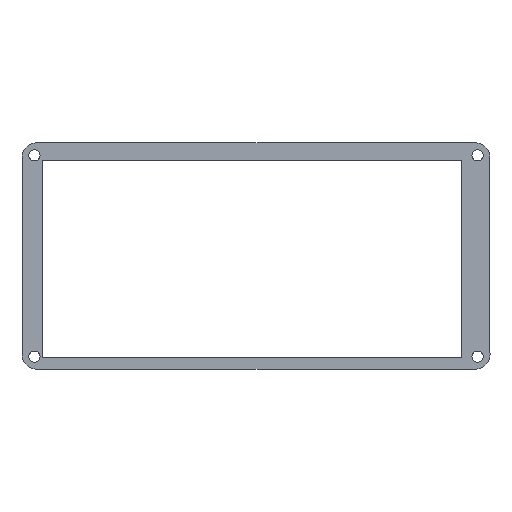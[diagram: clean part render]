
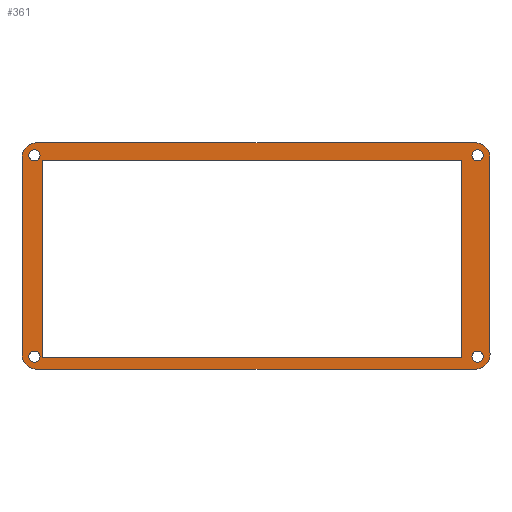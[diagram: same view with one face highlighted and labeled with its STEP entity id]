
A CAD part, top view. The second image highlights one B-rep face of the part: STEP entity #361.
In plain terms, the highlighted planar face has unit normal (0, 0, 1).
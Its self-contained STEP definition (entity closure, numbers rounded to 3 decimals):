
#15=FACE_BOUND('',#70,.T.);
#16=FACE_BOUND('',#71,.T.);
#17=FACE_BOUND('',#72,.T.);
#18=FACE_BOUND('',#73,.T.);
#19=FACE_BOUND('',#74,.T.);
#33=PLANE('',#409);
#51=FACE_OUTER_BOUND('',#69,.T.);
#69=EDGE_LOOP('',(#305,#306,#307,#308,#309,#310,#311,#312));
#70=EDGE_LOOP('',(#313));
#71=EDGE_LOOP('',(#314));
#72=EDGE_LOOP('',(#315));
#73=EDGE_LOOP('',(#316));
#74=EDGE_LOOP('',(#317,#318,#319,#320));
#85=LINE('',#541,#117);
#89=LINE('',#549,#121);
#92=LINE('',#555,#124);
#95=LINE('',#560,#127);
#97=LINE('',#565,#129);
#102=LINE('',#579,#134);
#106=LINE('',#591,#138);
#110=LINE('',#603,#142);
#117=VECTOR('',#443,10.);
#121=VECTOR('',#449,10.);
#124=VECTOR('',#454,10.);
#127=VECTOR('',#459,10.);
#129=VECTOR('',#463,10.);
#134=VECTOR('',#476,10.);
#138=VECTOR('',#488,10.);
#142=VECTOR('',#500,10.);
#145=CIRCLE('',#378,1.3);
#147=CIRCLE('',#381,1.3);
#149=CIRCLE('',#384,1.3);
#151=CIRCLE('',#387,1.3);
#153=CIRCLE('',#395,3.4);
#155=CIRCLE('',#399,3.4);
#157=CIRCLE('',#403,3.4);
#159=CIRCLE('',#407,3.4);
#161=VERTEX_POINT('',#515);
#163=VERTEX_POINT('',#521);
#165=VERTEX_POINT('',#527);
#167=VERTEX_POINT('',#533);
#169=VERTEX_POINT('',#539);
#170=VERTEX_POINT('',#540);
#173=VERTEX_POINT('',#548);
#175=VERTEX_POINT('',#554);
#177=VERTEX_POINT('',#563);
#178=VERTEX_POINT('',#564);
#181=VERTEX_POINT('',#572);
#183=VERTEX_POINT('',#578);
#185=VERTEX_POINT('',#584);
#187=VERTEX_POINT('',#590);
#189=VERTEX_POINT('',#596);
#191=VERTEX_POINT('',#602);
#193=EDGE_CURVE('',#161,#161,#145,.T.);
#196=EDGE_CURVE('',#163,#163,#147,.T.);
#199=EDGE_CURVE('',#165,#165,#149,.T.);
#202=EDGE_CURVE('',#167,#167,#151,.T.);
#205=EDGE_CURVE('',#169,#170,#85,.T.);
#209=EDGE_CURVE('',#170,#173,#89,.F.);
#212=EDGE_CURVE('',#173,#175,#92,.F.);
#215=EDGE_CURVE('',#175,#169,#95,.F.);
#217=EDGE_CURVE('',#177,#178,#97,.T.);
#221=EDGE_CURVE('',#177,#181,#153,.T.);
#224=EDGE_CURVE('',#183,#181,#102,.T.);
#227=EDGE_CURVE('',#183,#185,#155,.T.);
#230=EDGE_CURVE('',#187,#185,#106,.T.);
#233=EDGE_CURVE('',#187,#189,#157,.T.);
#236=EDGE_CURVE('',#191,#189,#110,.T.);
#239=EDGE_CURVE('',#191,#178,#159,.T.);
#305=ORIENTED_EDGE('',*,*,#239,.T.);
#306=ORIENTED_EDGE('',*,*,#217,.F.);
#307=ORIENTED_EDGE('',*,*,#221,.T.);
#308=ORIENTED_EDGE('',*,*,#224,.F.);
#309=ORIENTED_EDGE('',*,*,#227,.T.);
#310=ORIENTED_EDGE('',*,*,#230,.F.);
#311=ORIENTED_EDGE('',*,*,#233,.T.);
#312=ORIENTED_EDGE('',*,*,#236,.F.);
#313=ORIENTED_EDGE('',*,*,#193,.T.);
#314=ORIENTED_EDGE('',*,*,#196,.T.);
#315=ORIENTED_EDGE('',*,*,#199,.T.);
#316=ORIENTED_EDGE('',*,*,#202,.T.);
#317=ORIENTED_EDGE('',*,*,#215,.T.);
#318=ORIENTED_EDGE('',*,*,#205,.T.);
#319=ORIENTED_EDGE('',*,*,#209,.T.);
#320=ORIENTED_EDGE('',*,*,#212,.T.);
#361=ADVANCED_FACE('',(#51,#15,#16,#17,#18,#19),#33,.T.);
#378=AXIS2_PLACEMENT_3D('',#516,#415,#416);
#381=AXIS2_PLACEMENT_3D('',#522,#422,#423);
#384=AXIS2_PLACEMENT_3D('',#528,#429,#430);
#387=AXIS2_PLACEMENT_3D('',#534,#436,#437);
#395=AXIS2_PLACEMENT_3D('',#573,#469,#470);
#399=AXIS2_PLACEMENT_3D('',#585,#481,#482);
#403=AXIS2_PLACEMENT_3D('',#597,#493,#494);
#407=AXIS2_PLACEMENT_3D('',#608,#505,#506);
#409=AXIS2_PLACEMENT_3D('',#610,#509,#510);
#415=DIRECTION('center_axis',(0.,0.,-1.));
#416=DIRECTION('ref_axis',(1.,0.,0.));
#422=DIRECTION('center_axis',(0.,0.,-1.));
#423=DIRECTION('ref_axis',(1.,0.,0.));
#429=DIRECTION('center_axis',(0.,0.,-1.));
#430=DIRECTION('ref_axis',(1.,0.,0.));
#436=DIRECTION('center_axis',(0.,0.,-1.));
#437=DIRECTION('ref_axis',(1.,0.,0.));
#443=DIRECTION('',(1.,0.,0.));
#449=DIRECTION('',(0.,1.,0.));
#454=DIRECTION('',(1.,0.,0.));
#459=DIRECTION('',(0.,-1.,0.));
#463=DIRECTION('',(0.,1.,0.));
#469=DIRECTION('center_axis',(0.,0.,1.));
#470=DIRECTION('ref_axis',(-1.,0.,0.));
#476=DIRECTION('',(-1.,0.,0.));
#481=DIRECTION('center_axis',(0.,0.,1.));
#482=DIRECTION('ref_axis',(0.,-1.,0.));
#488=DIRECTION('',(0.,-1.,0.));
#493=DIRECTION('center_axis',(0.,0.,1.));
#494=DIRECTION('ref_axis',(1.,0.,0.));
#500=DIRECTION('',(1.,0.,0.));
#505=DIRECTION('center_axis',(0.,0.,1.));
#506=DIRECTION('ref_axis',(0.,1.,0.));
#509=DIRECTION('center_axis',(0.,0.,1.));
#510=DIRECTION('ref_axis',(1.,0.,0.));
#515=CARTESIAN_POINT('',(107.2,78.5,22.2));
#516=CARTESIAN_POINT('Origin',(108.5,78.5,22.2));
#521=CARTESIAN_POINT('',(4.2,31.679,22.2));
#522=CARTESIAN_POINT('Origin',(5.5,31.679,22.2));
#527=CARTESIAN_POINT('',(107.2,31.679,22.2));
#528=CARTESIAN_POINT('Origin',(108.5,31.679,22.2));
#533=CARTESIAN_POINT('',(4.2,78.5,22.2));
#534=CARTESIAN_POINT('Origin',(5.5,78.5,22.2));
#539=CARTESIAN_POINT('',(7.35,77.2,22.2));
#540=CARTESIAN_POINT('',(104.85,77.2,22.2));
#541=CARTESIAN_POINT('',(106.2,77.2,22.2));
#548=CARTESIAN_POINT('',(104.85,31.6,22.2));
#549=CARTESIAN_POINT('',(104.85,43.49,22.2));
#554=CARTESIAN_POINT('',(7.35,31.6,22.2));
#555=CARTESIAN_POINT('',(32.4,31.6,22.2));
#560=CARTESIAN_POINT('',(7.35,66.145,22.2));
#563=CARTESIAN_POINT('',(2.6,32.179,22.2));
#564=CARTESIAN_POINT('',(2.6,78.,22.2));
#565=CARTESIAN_POINT('',(2.6,32.179,22.2));
#572=CARTESIAN_POINT('',(6.,28.779,22.2));
#573=CARTESIAN_POINT('Origin',(6.,32.179,22.2));
#578=CARTESIAN_POINT('',(108.,28.779,22.2));
#579=CARTESIAN_POINT('',(108.,28.779,22.2));
#584=CARTESIAN_POINT('',(111.4,32.179,22.2));
#585=CARTESIAN_POINT('Origin',(108.,32.179,22.2));
#590=CARTESIAN_POINT('',(111.4,78.,22.2));
#591=CARTESIAN_POINT('',(111.4,78.,22.2));
#596=CARTESIAN_POINT('',(108.,81.4,22.2));
#597=CARTESIAN_POINT('Origin',(108.,78.,22.2));
#602=CARTESIAN_POINT('',(6.,81.4,22.2));
#603=CARTESIAN_POINT('',(6.,81.4,22.2));
#608=CARTESIAN_POINT('Origin',(6.,78.,22.2));
#610=CARTESIAN_POINT('Origin',(57.,55.089,22.2));
